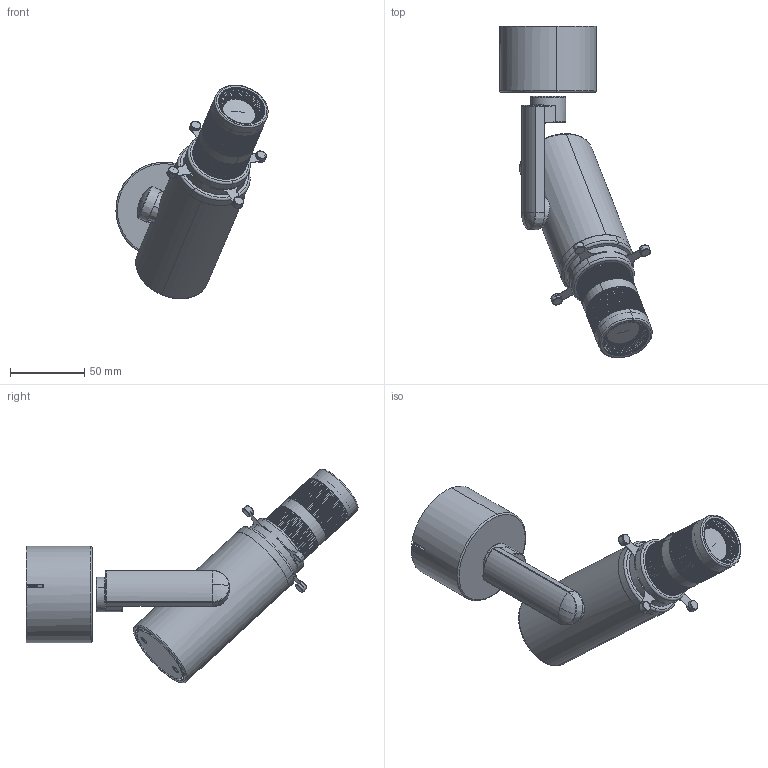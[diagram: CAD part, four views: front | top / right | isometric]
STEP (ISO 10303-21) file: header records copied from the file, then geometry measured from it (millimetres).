
FILE_DESCRIPTION (( 'STEP AP203' ), '1' );
FILE_NAME ('MODI-FP.2SPM.XX.STEP', '2025-05-07T04:12:46', ( '' ), ( '' ), 'SwSTEP 2.0', 'SolidWorks 2024', '' );
FILE_SCHEMA (( 'CONFIG_CONTROL_DESIGN' ));
Length unit declared in the file: millimetre
Products named in the file (5): MODI-FP.2SPM.XX; MODI-2-Framing_projector_lens.step; MODI-2-Luminaire_body.step; MODI-2-Luminaire_arm.step; MODI-2-Single_point_base_surface.step
Assembly tree (4 placements, depth 2):
  MODI-FP.2SPM.XX
    MODI-2-Luminaire_body.step
    MODI-2-Framing_projector_lens.step
    MODI-2-Single_point_base_surface.step
    MODI-2-Luminaire_arm.step
Bounding box: 102.4 x 223.4 x 143.84 mm (x, y, z)
Volume: 311008.6 mm3; surface area: 143222.7 mm2
Topology: 9 solids, 39 shells, 3155 faces, 9001 edges, 5949 vertices
Faces by surface type: plane 1236, cylinder 1054, cone 515, bspline 288, torus 52, sphere 10
Entity records: 228473 total; most frequent: CARTESIAN_POINT 149012, ORIENTED_EDGE 17990, DIRECTION 14954, EDGE_CURVE 8995, VERTEX_POINT 5949, AXIS2_PLACEMENT_3D 5374, VECTOR 4206, LINE 4206
